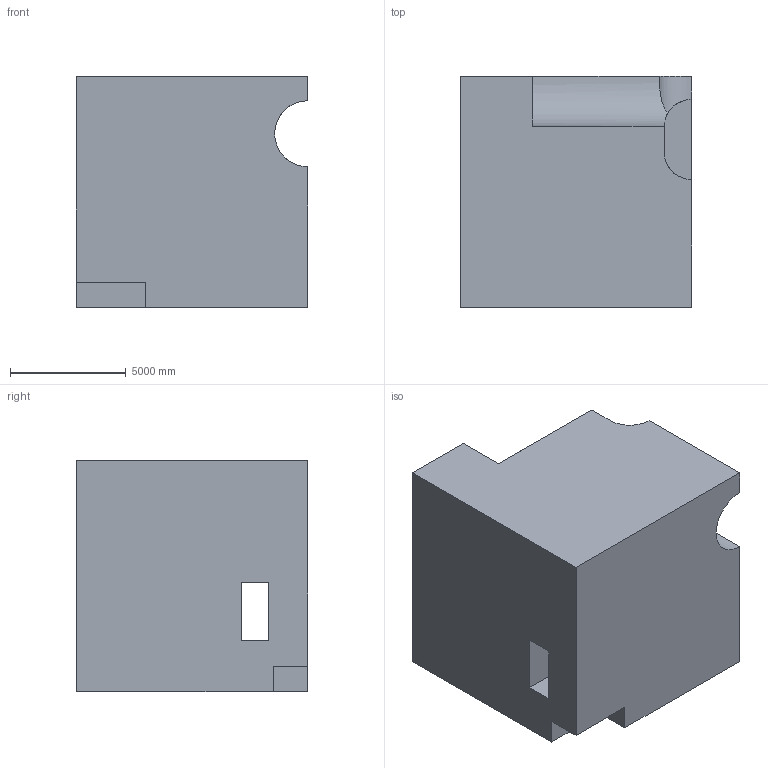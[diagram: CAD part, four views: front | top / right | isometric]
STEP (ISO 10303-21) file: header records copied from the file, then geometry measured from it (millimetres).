
FILE_DESCRIPTION (( 'STEP AP203' ), '1' );
FILE_NAME ('408.STEP', '2022-07-29T11:09:43', ( 'user' ), ( '' ), 'SwSTEP 2.0', 'SolidWorks 2021', '' );
FILE_SCHEMA (( 'CONFIG_CONTROL_DESIGN' ));
Length unit declared in the file: centimetre
Products named in the file (1): 408
Bounding box: 10000 x 10000 x 10000 mm (x, y, z)
Volume: 895671276652 mm3; surface area: 668777234.2 mm2
Topology: 1 solids, 1 shells, 24 faces, 66 edges, 44 vertices
Faces by surface type: plane 18, cylinder 6
Entity records: 1217 total; most frequent: CARTESIAN_POINT 526, ORIENTED_EDGE 132, DIRECTION 117, EDGE_CURVE 66, LINE 53, VECTOR 53, VERTEX_POINT 44, AXIS2_PLACEMENT_3D 32
